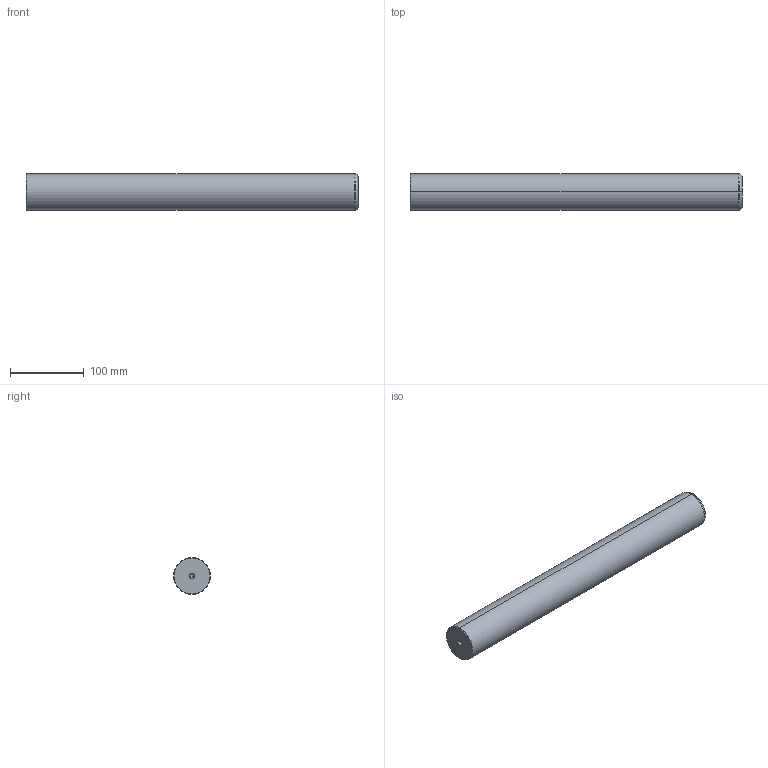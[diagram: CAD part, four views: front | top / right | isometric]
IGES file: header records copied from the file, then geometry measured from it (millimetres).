
Start section: START RECORD GO HERE.
Global section: file name: 720-50x450.igs; native system: DASSAULT SYSTEMES CATIA V5 R20 - www.3ds.com; preprocessor: CATIA Version 5 Release 20 ; author: Utente; organization: NB04-ASUS; date: 20201230.223732; units: millimetre
Bounding box: 450 x 50 x 50 mm (x, y, z)
Surface area: 75205.5 mm2 (no closed solid volume)
Topology: 0 solids, 0 shells, 22 faces, 120 edges, 116 vertices
Faces by surface type: revolution 20, plane 2
